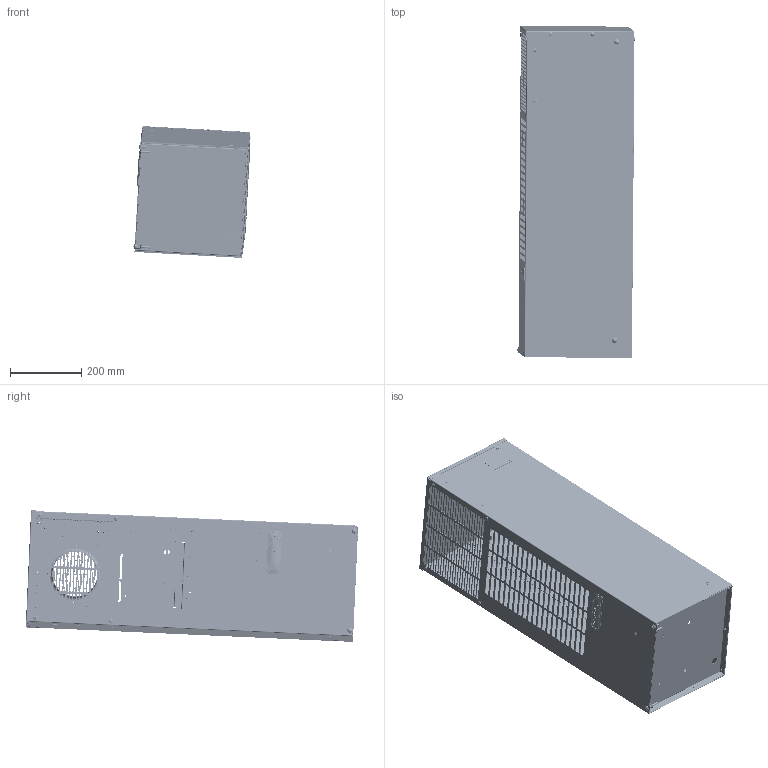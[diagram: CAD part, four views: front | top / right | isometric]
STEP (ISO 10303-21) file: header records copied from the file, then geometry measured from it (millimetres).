
FILE_DESCRIPTION (( 'STEP AP203' ), '1' );
FILE_NAME ('31x1 SL shell w-o rainhood.STEP', '2019-10-22T13:07:38', ( '' ), ( '' ), 'SwSTEP 2.0', 'SolidWorks 2018', '' );
FILE_SCHEMA (( 'CONFIG_CONTROL_DESIGN' ));
Length unit declared in the file: millimetre
Products named in the file (29): 820100000_820100000; 020140030_020140030; 30240-601_316 SS; US-085110130_085110130; 30240-018_802002066; 30240-032; 31x1 SL shell w-o rainhood; 085110170; 820140000_Rivet Painted MultiGripRAL7035; 020140018_020140018; 015080031_015080031; 020200025_020200025; 30240-022; 30240-021._802002067; 025500743_025500743; 30240-015; 820140011_default; 085110010_085110010; 30241-013; 820100030_820100030; 885000105_885000105; 011190701; 30240-010; 820140006_Rivet 5-32; Dome; Std; SS #52; 085110140_085110140; 820100032_820100032; 020140010_020140010; 80000-012_885000177; 085110150_085110150
Assembly tree (79 placements, depth 3):
  31x1 SL shell w-o rainhood
    30240-010
    020140010_020140010  x4
    020140030_020140030  x13
    30240-032
    020140018_020140018  x19
    30240-022
    30240-015
    30241-013
    011190701
    820100032_820100032  x2
    820100000_820100000  x2
    30240-601_316 SS
      30240-018_802002066
      820100000_820100000  x4
      820140000_Rivet Painted MultiGripRAL7035
      020200025_020200025
      025500743_025500743
      085110010_085110010
      885000105_885000105
      085110140_085110140  x2
      085110150_085110150
      US-085110130_085110130
      085110170
      015080031_015080031
      30240-021._802002067
      820140011_default  x4
      820100030_820100030  x6
      820140006_Rivet 5-32; Dome; Std; SS #52  x4
      80000-012_885000177
Bounding box: 328.94 x 931.89 x 370.06 mm (x, y, z)
Volume: 1834259.6 mm3; surface area: 3099253.8 mm2
Topology: 138 solids, 138 shells, 14557 faces, 38885 edges, 25650 vertices
Faces by surface type: plane 8468, bspline 3998, cylinder 1346, cone 447, torus 174, sphere 124
Entity records: 510619 total; most frequent: CARTESIAN_POINT 271970, ORIENTED_EDGE 53830, DIRECTION 37142, EDGE_CURVE 26915, VECTOR 19426, LINE 19426, VERTEX_POINT 17858, EDGE_LOOP 11587
